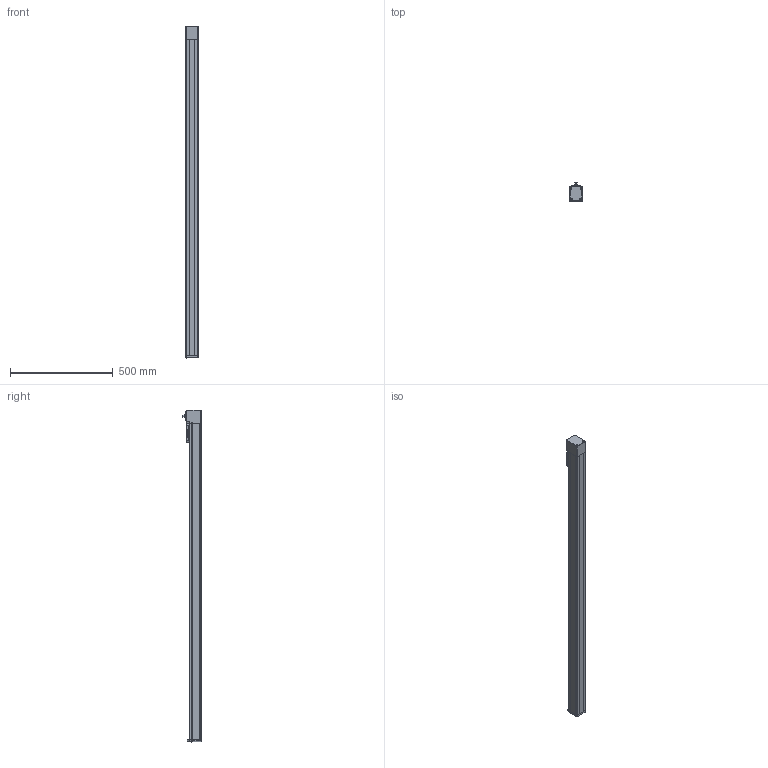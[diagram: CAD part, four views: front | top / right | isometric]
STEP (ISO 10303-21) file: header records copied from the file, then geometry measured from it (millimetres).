
FILE_DESCRIPTION(/* description */ ('STEP AP214'),/* implementation_level */ '2;1');
FILE_NAME(/* name */ 'MGTB 60 1400(0)',/* time_stamp */ '2023-04-17T13:41:24+02:00',/* author */ ('License CC BY-ND 4.0'),/* organization */ ('CADENAS'),/* preprocessor_version */ 'ST-DEVELOPER v19.3',/* originating_system */ 'PARTsolutions',/* authorisation */ ' ');
FILE_SCHEMA (('AUTOMOTIVE_DESIGN {1 0 10303 214 3 1 1}'));
Length unit declared in the file: millimetre
Products named in the file (6): MGTB 60 1400(0); MGTB 60 1400_protection_strip; MGTB 60_carriage; MGTB 60_end_block; MGTB 60 1400_profile; MGTB 60_drive_block
Assembly tree (5 placements, depth 2):
  MGTB 60 1400(0)
    MGTB 60 1400_protection_strip
    MGTB 60_carriage
    MGTB 60_end_block
    MGTB 60 1400_profile
    MGTB 60_drive_block
Bounding box: 60 x 92.5 x 1615.01 mm (x, y, z)
Volume: 5640499.7 mm3; surface area: 653541.8 mm2
Topology: 5 solids, 5 shells, 696 faces, 1771 edges, 1140 vertices
Faces by surface type: plane 351, cylinder 156, cone 94, bspline 68, torus 25, sphere 2
Full cylindrical faces by diameter (mm): 2 x1, 2.459 x4, 3.242 x6, 4 x12, 4.134 x8, 4.2 x2, 4.8 x2, 5 x2, 5.5 x4, 7 x6, 8 x4, 10 x1, 11 x3, 16 x1, 17 x1, 30 x1, 35 x1, 42 x2
Entity records: 25037 total; most frequent: CARTESIAN_POINT 4184, DIRECTION 3411, ORIENTED_EDGE 3232, EDGE_CURVE 1616, AXIS2_PLACEMENT_3D 1219, VERTEX_POINT 1120, LINE 973, VECTOR 973
